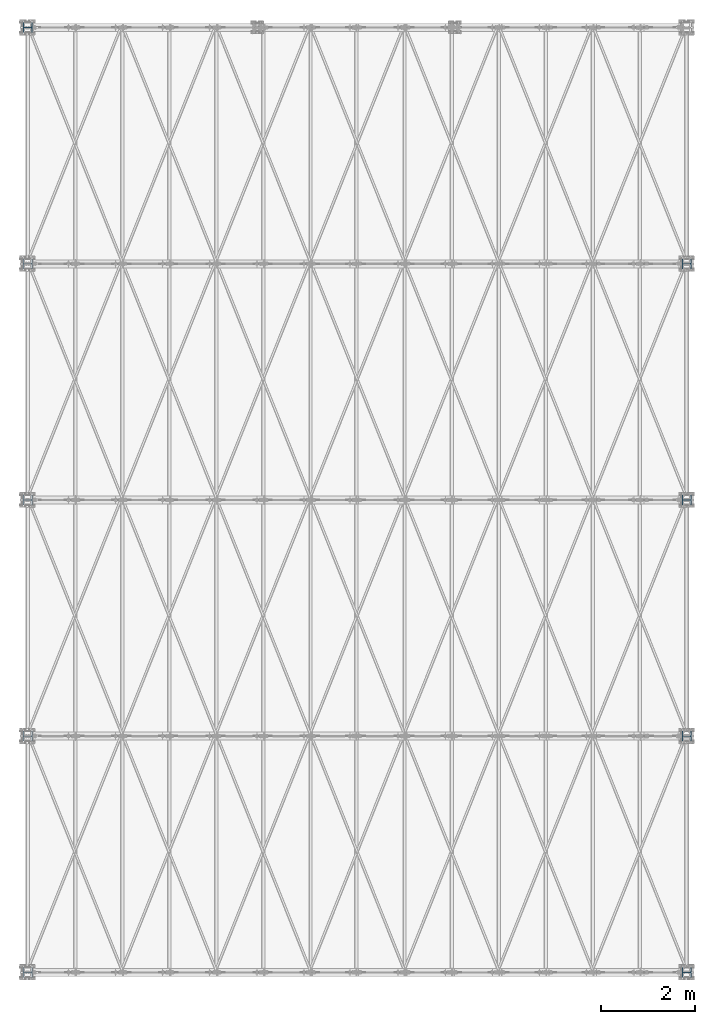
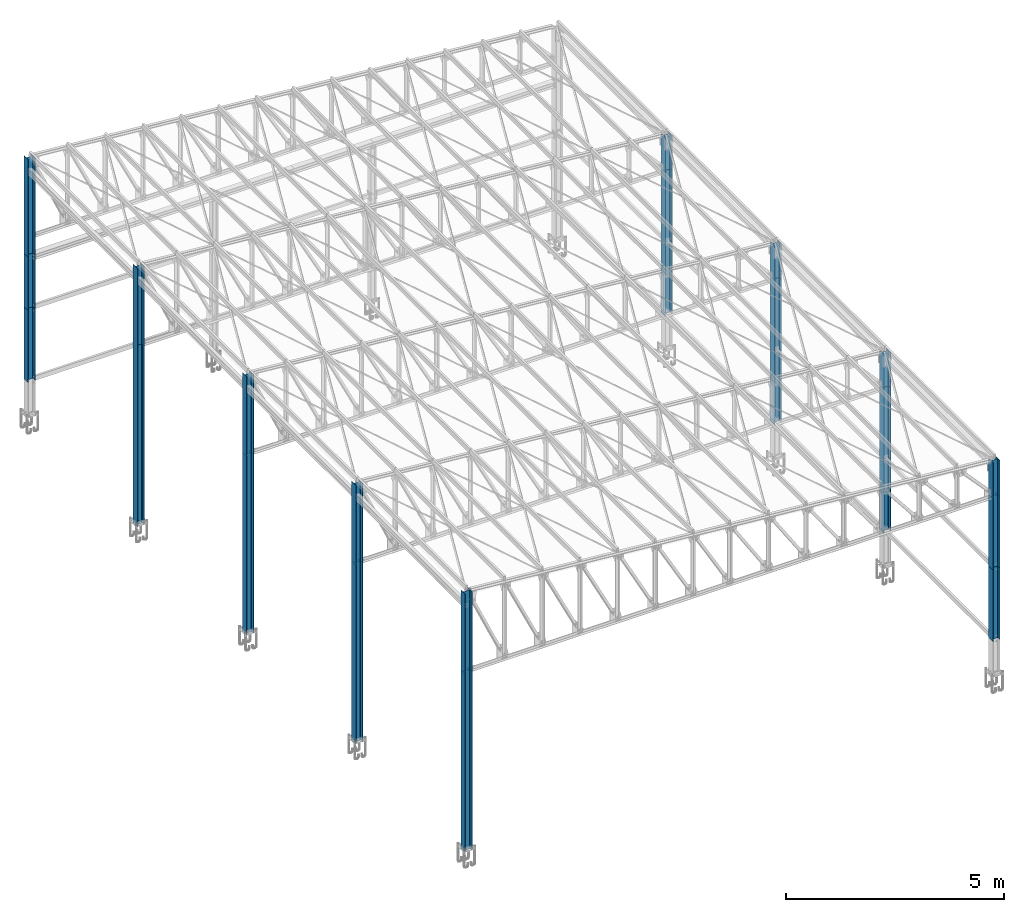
# One storey, part 1 of 251: 23 columns.
"""IFC4 building model written with IfcOpenShell, lengths in metres."""

from ifc_helpers import new_model, si_unit, frame, origin_with_axes, origin_2d_with_axis, place, context, project, spatial, i_section, extrude, clip, halfspace, material, material_profile, profile_set, profile_usage, type_object, element, save


model = new_model("IFC4")

# Units and contexts
model_context = context("Model", 3, precision=1e-05, world=origin_with_axes())
ifc_project = project(units=[si_unit("LENGTHUNIT", "METRE"), si_unit("AREAUNIT", "SQUARE_METRE"), si_unit("VOLUMEUNIT", "CUBIC_METRE"), si_unit("MASSUNIT", "GRAM", prefix="KILO"), si_unit("TIMEUNIT", "SECOND"), si_unit("PLANEANGLEUNIT", "RADIAN"), si_unit("SOLIDANGLEUNIT", "STERADIAN"), si_unit("THERMODYNAMICTEMPERATUREUNIT", "DEGREE_CELSIUS")], contexts=[model_context])

# Site, building, storey
placement_1 = place(None, origin_with_axes())
site = spatial("IfcSite", under=ifc_project, at=placement_1, Name="Italia", CompositionType="ELEMENT")
building = spatial("IfcBuilding", under=site, at=placement_1, Name="Deposito", CompositionType="ELEMENT")
storey = spatial("IfcBuildingStorey", under=building, at=placement_1, Name="Storey 0", CompositionType="ELEMENT", Elevation=0.0)

# Columns
ifc_material = material(Name="Acciaio", Category="Acciaio")
ifc_material_profile = material_profile(ifc_material, i_section(OverallWidth=0.2, OverallDepth=0.19, WebThickness=0.006, FlangeThickness=0.01, FilletRadius=0.018, at=origin_2d_with_axis()), Name="7 PILASTRO HEA200")
ifc_profile_set = profile_set([ifc_material_profile])
column_type_1 = type_object("IfcColumnType", Name="7 PILASTRO HEA200", PredefinedType="COLUMN", material=ifc_profile_set)
placement_2 = place(placement_1, origin_with_axes())
column_1_placement = place(placement_2, origin_with_axes())
element("IfcColumn", 1, at=column_1_placement, inside=storey, type_object=column_type_1, Name="14", context=model_context, shape_type="SweptSolid", body=[
    extrude(i_section(OverallWidth=0.2, OverallDepth=0.19, WebThickness=0.006, FlangeThickness=0.01, FilletRadius=0.018, at=origin_2d_with_axis()), frame((20.0, 0.0, 3.0), z_axis=(0.0, 0.0, 1.0), x_axis=(0.0, 1.0, 0.0)), (0.0, 0.0, 1.0), 3.0),
])
ifc_profile_usage_1 = profile_usage(ifc_profile_set, cardinal=5)
column_type_2 = type_object("IfcColumnType", Name="7 PILASTRO HEA200", PredefinedType="COLUMN", material=ifc_profile_usage_1)
column_2_placement = place(placement_2, origin_with_axes())
element("IfcColumn", 2, at=column_2_placement, inside=storey, type_object=column_type_2, Name="16", context=model_context, shape_type="SweptSolid", body=[
    extrude(i_section(OverallWidth=0.2, OverallDepth=0.19, WebThickness=0.006, FlangeThickness=0.01, FilletRadius=0.018, at=origin_2d_with_axis()), frame((6.05, 0.0, 0.0), z_axis=(0.0, 0.0, 1.0), x_axis=(0.0, 1.0, 0.0)), (0.0, 0.0, 1.0), 7.22018),
])
ifc_profile_usage_2 = profile_usage(ifc_profile_set, cardinal=5)
column_type_3 = type_object("IfcColumnType", Name="7 PILASTRO HEA200", PredefinedType="COLUMN", material=ifc_profile_usage_2)
column_3_placement = place(placement_2, origin_with_axes())
element("IfcColumn", 3, at=column_3_placement, inside=storey, type_object=column_type_3, Name="32", context=model_context, shape_type="SweptSolid", body=[
    extrude(i_section(OverallWidth=0.2, OverallDepth=0.19, WebThickness=0.006, FlangeThickness=0.01, FilletRadius=0.018, at=origin_2d_with_axis()), frame((20.0, 5.0, 3.0), z_axis=(0.0, 0.0, 1.0), x_axis=(0.0, 1.0, 0.0)), (0.0, 0.0, 1.0), 3.0),
])
ifc_profile_usage_3 = profile_usage(ifc_profile_set, cardinal=5)
column_type_4 = type_object("IfcColumnType", Name="7 PILASTRO HEA200", PredefinedType="COLUMN", material=ifc_profile_usage_3)
column_4_placement = place(placement_2, origin_with_axes())
element("IfcColumn", 4, at=column_4_placement, inside=storey, type_object=column_type_4, Name="18", context=model_context, shape_type="SweptSolid", body=[
    extrude(i_section(OverallWidth=0.2, OverallDepth=0.19, WebThickness=0.006, FlangeThickness=0.01, FilletRadius=0.018, at=origin_2d_with_axis()), frame((6.05, 5.0, 0.0), z_axis=(0.0, 0.0, 1.0), x_axis=(0.0, 1.0, 0.0)), (0.0, 0.0, 1.0), 7.22018),
])
ifc_profile_usage_4 = profile_usage(ifc_profile_set, cardinal=5)
column_type_5 = type_object("IfcColumnType", Name="7 PILASTRO HEA200", PredefinedType="COLUMN", material=ifc_profile_usage_4)
column_5_placement = place(placement_2, origin_with_axes())
element("IfcColumn", 5, at=column_5_placement, inside=storey, type_object=column_type_5, Name="47", context=model_context, shape_type="SweptSolid", body=[
    extrude(i_section(OverallWidth=0.2, OverallDepth=0.19, WebThickness=0.006, FlangeThickness=0.01, FilletRadius=0.018, at=origin_2d_with_axis()), frame((20.0, 10.0, 3.0), z_axis=(0.0, 0.0, 1.0), x_axis=(0.0, 1.0, 0.0)), (0.0, 0.0, 1.0), 3.0),
])
ifc_profile_usage_5 = profile_usage(ifc_profile_set, cardinal=5)
column_type_6 = type_object("IfcColumnType", Name="7 PILASTRO HEA200", PredefinedType="COLUMN", material=ifc_profile_usage_5)
column_6_placement = place(placement_2, origin_with_axes())
element("IfcColumn", 6, at=column_6_placement, inside=storey, type_object=column_type_6, Name="33", context=model_context, shape_type="SweptSolid", body=[
    extrude(i_section(OverallWidth=0.2, OverallDepth=0.19, WebThickness=0.006, FlangeThickness=0.01, FilletRadius=0.018, at=origin_2d_with_axis()), frame((6.05, 10.0, 0.0), z_axis=(0.0, 0.0, 1.0), x_axis=(0.0, 1.0, 0.0)), (0.0, 0.0, 1.0), 7.22018),
])
ifc_profile_usage_6 = profile_usage(ifc_profile_set, cardinal=5)
column_type_7 = type_object("IfcColumnType", Name="7 PILASTRO HEA200", PredefinedType="COLUMN", material=ifc_profile_usage_6)
column_7_placement = place(placement_2, origin_with_axes())
element("IfcColumn", 7, at=column_7_placement, inside=storey, type_object=column_type_7, Name="62", context=model_context, shape_type="SweptSolid", body=[
    extrude(i_section(OverallWidth=0.2, OverallDepth=0.19, WebThickness=0.006, FlangeThickness=0.01, FilletRadius=0.018, at=origin_2d_with_axis()), frame((20.0, 15.0, 3.0), z_axis=(0.0, 0.0, 1.0), x_axis=(0.0, 1.0, 0.0)), (0.0, 0.0, 1.0), 3.0),
])
ifc_profile_usage_7 = profile_usage(ifc_profile_set, cardinal=5)
column_type_8 = type_object("IfcColumnType", Name="7 PILASTRO HEA200", PredefinedType="COLUMN", material=ifc_profile_usage_7)
column_8_placement = place(placement_2, origin_with_axes())
element("IfcColumn", 8, at=column_8_placement, inside=storey, type_object=column_type_8, Name="48", context=model_context, shape_type="SweptSolid", body=[
    extrude(i_section(OverallWidth=0.2, OverallDepth=0.19, WebThickness=0.006, FlangeThickness=0.01, FilletRadius=0.018, at=origin_2d_with_axis()), frame((6.05, 15.0, 0.0), z_axis=(0.0, 0.0, 1.0), x_axis=(0.0, 1.0, 0.0)), (0.0, 0.0, 1.0), 7.22018),
])
ifc_profile_usage_8 = profile_usage(ifc_profile_set, cardinal=5)
column_type_9 = type_object("IfcColumnType", Name="7 PILASTRO HEA200", PredefinedType="COLUMN", material=ifc_profile_usage_8)
column_9_placement = place(placement_2, origin_with_axes())
element("IfcColumn", 9, at=column_9_placement, inside=storey, type_object=column_type_9, Name="63", context=model_context, shape_type="SweptSolid", body=[
    extrude(i_section(OverallWidth=0.2, OverallDepth=0.19, WebThickness=0.006, FlangeThickness=0.01, FilletRadius=0.018, at=origin_2d_with_axis()), frame((6.05, 20.0, 4.5), z_axis=(0.0, 0.0, 1.0), x_axis=(0.0, 1.0, 0.0)), (0.0, 0.0, 1.0), 2.72018),
])
ifc_profile_usage_9 = profile_usage(ifc_profile_set, cardinal=5)
column_type_10 = type_object("IfcColumnType", Name="7 PILASTRO HEA200", PredefinedType="COLUMN", material=ifc_profile_usage_9)
column_10_placement = place(placement_2, frame((6.050000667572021, 14.99999713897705, -2.5), z_axis=(0.0, 0.0, 1.0), x_axis=(1.0, 0.0, 0.0)))
element("IfcColumn", 10, at=column_10_placement, inside=storey, type_object=column_type_10, Name="48", context=model_context, shape_type="Clipping", body=[
    clip(extrude(i_section(OverallWidth=0.2, OverallDepth=0.19, WebThickness=0.006, FlangeThickness=0.01, FilletRadius=0.018, at=origin_2d_with_axis()), frame((0.0, 0.0, 0.0), z_axis=(0.0, 0.0, 1.0), x_axis=(0.0, 1.0, 0.0)), (0.0, 0.0, 1.0), 7.5), halfspace(frame((-9.53674e-07, 1.90735e-06, 2.575), z_axis=(0.0, 0.0, -1.0), x_axis=(1.0, 0.0, 0.0)), False)),
])
ifc_profile_usage_10 = profile_usage(ifc_profile_set, cardinal=5)
column_type_11 = type_object("IfcColumnType", Name="7 PILASTRO HEA200", PredefinedType="COLUMN", material=ifc_profile_usage_10)
column_11_placement = place(placement_2, frame((6.050000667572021, 5.000000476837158, -2.5), z_axis=(0.0, 0.0, 1.0), x_axis=(1.0, 0.0, 0.0)))
element("IfcColumn", 11, at=column_11_placement, inside=storey, type_object=column_type_11, Name="18", context=model_context, shape_type="Clipping", body=[
    clip(extrude(i_section(OverallWidth=0.2, OverallDepth=0.19, WebThickness=0.006, FlangeThickness=0.01, FilletRadius=0.018, at=origin_2d_with_axis()), frame((0.0, 0.0, 0.0), z_axis=(0.0, 0.0, 1.0), x_axis=(0.0, 1.0, 0.0)), (0.0, 0.0, 1.0), 7.5), halfspace(frame((-9.53674e-07, 0.0, 2.575), z_axis=(0.0, 0.0, -1.0), x_axis=(1.0, 0.0, 0.0)), False)),
])
ifc_profile_usage_11 = profile_usage(ifc_profile_set, cardinal=5)
column_type_12 = type_object("IfcColumnType", Name="7 PILASTRO HEA200", PredefinedType="COLUMN", material=ifc_profile_usage_11)
column_12_placement = place(placement_2, frame((6.050000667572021, 10.000000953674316, -2.5), z_axis=(0.0, 0.0, 1.0), x_axis=(1.0, 0.0, 0.0)))
element("IfcColumn", 12, at=column_12_placement, inside=storey, type_object=column_type_12, Name="33", context=model_context, shape_type="Clipping", body=[
    clip(extrude(i_section(OverallWidth=0.2, OverallDepth=0.19, WebThickness=0.006, FlangeThickness=0.01, FilletRadius=0.018, at=origin_2d_with_axis()), frame((0.0, 0.0, 0.0), z_axis=(0.0, 0.0, 1.0), x_axis=(0.0, 1.0, 0.0)), (0.0, 0.0, 1.0), 7.5), halfspace(frame((-9.53674e-07, 0.0, 2.575), z_axis=(0.0, 0.0, -1.0), x_axis=(1.0, 0.0, 0.0)), False)),
])
ifc_profile_usage_12 = profile_usage(ifc_profile_set, cardinal=5)
column_type_13 = type_object("IfcColumnType", Name="7 PILASTRO HEA200", PredefinedType="COLUMN", material=ifc_profile_usage_12)
column_13_placement = place(placement_2, frame((6.050000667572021, 0.0, -2.5), z_axis=(0.0, 0.0, 1.0), x_axis=(1.0, 0.0, 0.0)))
element("IfcColumn", 13, at=column_13_placement, inside=storey, type_object=column_type_13, Name="16", context=model_context, shape_type="Clipping", body=[
    clip(extrude(i_section(OverallWidth=0.2, OverallDepth=0.19, WebThickness=0.006, FlangeThickness=0.01, FilletRadius=0.018, at=origin_2d_with_axis()), frame((0.0, 0.0, 0.0), z_axis=(0.0, 0.0, 1.0), x_axis=(0.0, 1.0, 0.0)), (0.0, 0.0, 1.0), 7.5), halfspace(frame((-9.53674e-07, 0.0, 2.575), z_axis=(0.0, 0.0, -1.0), x_axis=(1.0, 0.0, 0.0)), False)),
])
ifc_profile_usage_13 = profile_usage(ifc_profile_set, cardinal=5)
column_type_14 = type_object("IfcColumnType", Name="7 PILASTRO HEA200", PredefinedType="COLUMN", material=ifc_profile_usage_13)
column_14_placement = place(placement_2, origin_with_axes())
element("IfcColumn", 14, at=column_14_placement, inside=storey, type_object=column_type_14, Name="32", context=model_context, shape_type="SweptSolid", body=[
    extrude(i_section(OverallWidth=0.2, OverallDepth=0.19, WebThickness=0.006, FlangeThickness=0.01, FilletRadius=0.018, at=origin_2d_with_axis()), frame((20.0, 5.0, 1.0), z_axis=(0.0, 0.0, 1.0), x_axis=(0.0, 1.0, 0.0)), (0.0, 0.0, 1.0), 2.0),
])
ifc_profile_usage_14 = profile_usage(ifc_profile_set, cardinal=5)
column_type_15 = type_object("IfcColumnType", Name="7 PILASTRO HEA200", PredefinedType="COLUMN", material=ifc_profile_usage_14)
column_15_placement = place(placement_2, origin_with_axes())
element("IfcColumn", 15, at=column_15_placement, inside=storey, type_object=column_type_15, Name="14", context=model_context, shape_type="SweptSolid", body=[
    extrude(i_section(OverallWidth=0.2, OverallDepth=0.19, WebThickness=0.006, FlangeThickness=0.01, FilletRadius=0.018, at=origin_2d_with_axis()), frame((20.0, 0.0, 1.0), z_axis=(0.0, 0.0, 1.0), x_axis=(0.0, 1.0, 0.0)), (0.0, 0.0, 1.0), 2.0),
])
ifc_profile_usage_15 = profile_usage(ifc_profile_set, cardinal=5)
column_type_16 = type_object("IfcColumnType", Name="7 PILASTRO HEA200", PredefinedType="COLUMN", material=ifc_profile_usage_15)
column_16_placement = place(placement_2, origin_with_axes())
element("IfcColumn", 16, at=column_16_placement, inside=storey, type_object=column_type_16, Name="47", context=model_context, shape_type="SweptSolid", body=[
    extrude(i_section(OverallWidth=0.2, OverallDepth=0.19, WebThickness=0.006, FlangeThickness=0.01, FilletRadius=0.018, at=origin_2d_with_axis()), frame((20.0, 10.0, 1.0), z_axis=(0.0, 0.0, 1.0), x_axis=(0.0, 1.0, 0.0)), (0.0, 0.0, 1.0), 2.0),
])
ifc_profile_usage_16 = profile_usage(ifc_profile_set, cardinal=5)
column_type_17 = type_object("IfcColumnType", Name="7 PILASTRO HEA200", PredefinedType="COLUMN", material=ifc_profile_usage_16)
column_17_placement = place(placement_2, origin_with_axes())
element("IfcColumn", 17, at=column_17_placement, inside=storey, type_object=column_type_17, Name="62", context=model_context, shape_type="SweptSolid", body=[
    extrude(i_section(OverallWidth=0.2, OverallDepth=0.19, WebThickness=0.006, FlangeThickness=0.01, FilletRadius=0.018, at=origin_2d_with_axis()), frame((20.0, 15.0, 1.0), z_axis=(0.0, 0.0, 1.0), x_axis=(0.0, 1.0, 0.0)), (0.0, 0.0, 1.0), 2.0),
])
ifc_profile_usage_17 = profile_usage(ifc_profile_set, cardinal=5)
column_type_18 = type_object("IfcColumnType", Name="7 PILASTRO HEA200", PredefinedType="COLUMN", material=ifc_profile_usage_17)
column_18_placement = place(placement_2, origin_with_axes())
element("IfcColumn", 18, at=column_18_placement, inside=storey, type_object=column_type_18, Name="32", context=model_context, shape_type="SweptSolid", body=[
    extrude(i_section(OverallWidth=0.2, OverallDepth=0.19, WebThickness=0.006, FlangeThickness=0.01, FilletRadius=0.018, at=origin_2d_with_axis()), frame((20.0, 5.0, 3.0), z_axis=(0.0, 0.0, 1.0), x_axis=(0.0, 1.0, 0.0)), (0.0, 0.0, 1.0), 2.0),
])
ifc_profile_usage_18 = profile_usage(ifc_profile_set, cardinal=5)
column_type_19 = type_object("IfcColumnType", Name="7 PILASTRO HEA200", PredefinedType="COLUMN", material=ifc_profile_usage_18)
column_19_placement = place(placement_2, origin_with_axes())
element("IfcColumn", 19, at=column_19_placement, inside=storey, type_object=column_type_19, Name="14", context=model_context, shape_type="SweptSolid", body=[
    extrude(i_section(OverallWidth=0.2, OverallDepth=0.19, WebThickness=0.006, FlangeThickness=0.01, FilletRadius=0.018, at=origin_2d_with_axis()), frame((20.0, 0.0, 3.0), z_axis=(0.0, 0.0, 1.0), x_axis=(0.0, 1.0, 0.0)), (0.0, 0.0, 1.0), 2.0),
])
ifc_profile_usage_19 = profile_usage(ifc_profile_set, cardinal=5)
column_type_20 = type_object("IfcColumnType", Name="7 PILASTRO HEA200", PredefinedType="COLUMN", material=ifc_profile_usage_19)
column_20_placement = place(placement_2, origin_with_axes())
element("IfcColumn", 20, at=column_20_placement, inside=storey, type_object=column_type_20, Name="47", context=model_context, shape_type="SweptSolid", body=[
    extrude(i_section(OverallWidth=0.2, OverallDepth=0.19, WebThickness=0.006, FlangeThickness=0.01, FilletRadius=0.018, at=origin_2d_with_axis()), frame((20.0, 10.0, 3.0), z_axis=(0.0, 0.0, 1.0), x_axis=(0.0, 1.0, 0.0)), (0.0, 0.0, 1.0), 2.0),
])
ifc_profile_usage_20 = profile_usage(ifc_profile_set, cardinal=5)
column_type_21 = type_object("IfcColumnType", Name="7 PILASTRO HEA200", PredefinedType="COLUMN", material=ifc_profile_usage_20)
column_21_placement = place(placement_2, origin_with_axes())
element("IfcColumn", 21, at=column_21_placement, inside=storey, type_object=column_type_21, Name="62", context=model_context, shape_type="SweptSolid", body=[
    extrude(i_section(OverallWidth=0.2, OverallDepth=0.19, WebThickness=0.006, FlangeThickness=0.01, FilletRadius=0.018, at=origin_2d_with_axis()), frame((20.0, 15.0, 3.0), z_axis=(0.0, 0.0, 1.0), x_axis=(0.0, 1.0, 0.0)), (0.0, 0.0, 1.0), 2.0),
])
ifc_profile_usage_21 = profile_usage(ifc_profile_set, cardinal=5)
column_type_22 = type_object("IfcColumnType", Name="7 PILASTRO HEA200", PredefinedType="COLUMN", material=ifc_profile_usage_21)
column_22_placement = place(placement_2, origin_with_axes())
element("IfcColumn", 22, at=column_22_placement, inside=storey, type_object=column_type_22, Name="63", context=model_context, shape_type="SweptSolid", body=[
    extrude(i_section(OverallWidth=0.2, OverallDepth=0.19, WebThickness=0.006, FlangeThickness=0.01, FilletRadius=0.018, at=origin_2d_with_axis()), frame((6.05, 20.0, 1.0), z_axis=(0.0, 0.0, 1.0), x_axis=(0.0, 1.0, 0.0)), (0.0, 0.0, 1.0), 2.0),
])
ifc_profile_usage_22 = profile_usage(ifc_profile_set, cardinal=5)
column_type_23 = type_object("IfcColumnType", Name="7 PILASTRO HEA200", PredefinedType="COLUMN", material=ifc_profile_usage_22)
column_23_placement = place(placement_2, origin_with_axes())
element("IfcColumn", 23, at=column_23_placement, inside=storey, type_object=column_type_23, Name="63", context=model_context, shape_type="SweptSolid", body=[
    extrude(i_section(OverallWidth=0.2, OverallDepth=0.19, WebThickness=0.006, FlangeThickness=0.01, FilletRadius=0.018, at=origin_2d_with_axis()), frame((6.05, 20.0, 3.0), z_axis=(0.0, 0.0, 1.0), x_axis=(0.0, 1.0, 0.0)), (0.0, 0.0, 1.0), 1.5),
])

save(model, "model.ifc")
